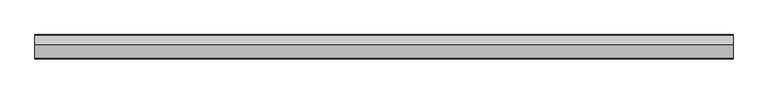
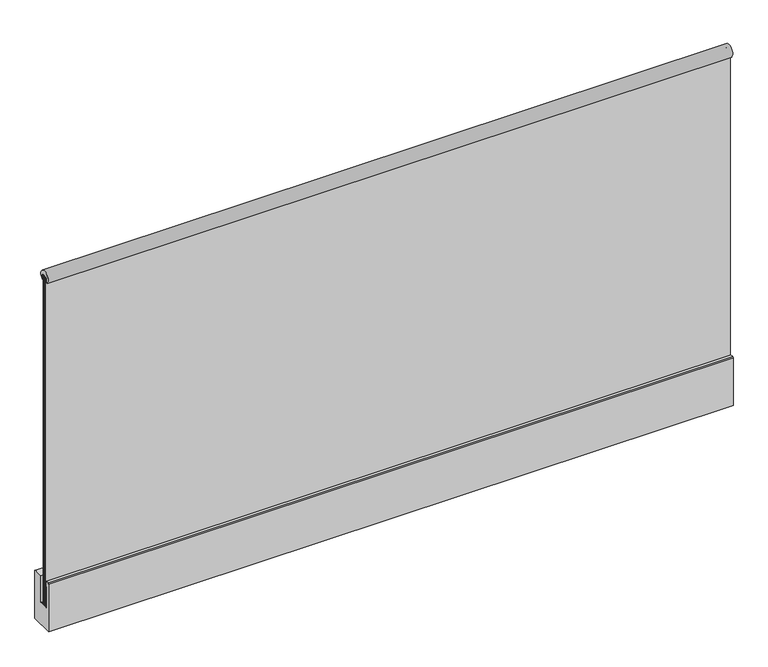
"""IFC4 building model written with IfcOpenShell, lengths in millimetres: railing geometry, Glass Railing (8+8) - Faraone - Ninfa 186 - Fascia mounted - Elipse Handrail 42.4."""

from ifc_helpers import new_model, si_unit, point, frame, frame_2d, origin, place, context, project, spatial, polyline, circle_curve, trimmed, segment, composite_curve, outline, extrude, source, transform, mapped, element, save


def railing_65ec6db7(model_context):
    return source(origin(), model_context, "Body", "SweptSolid", [
        extrude(outline(composite_curve([segment(polyline([(-2370.1890263, 1070.0168397), (-2373.0110364, 1070.0168397), (-2373.0110364, 1086.1465538)]), True, "CONTINUOUS"), segment(trimmed(circle_curve(frame_2d((-2376.3844826, 1086.1465538)), 3.3734462), [point((-2373.0110364, 1086.1465538))], [point((-2376.3844826, 1089.52))], True, "CARTESIAN"), True, "CONTINUOUS"), segment(polyline([(-2376.3844826, 1089.52), (-2393.4059942, 1089.52)]), True, "CONTINUOUS"), segment(trimmed(circle_curve(frame_2d((-2393.4059942, 1086.1344777)), 3.3855223), [point((-2393.4059942, 1089.52))], [point((-2396.7915164, 1086.1344777))], True, "CARTESIAN"), True, "CONTINUOUS"), segment(polyline([(-2396.7915164, 1086.1344777), (-2396.7915164, 1070.0168397), (-2399.6135266, 1070.0168397)]), True, "CONTINUOUS"), segment(trimmed(circle_curve(frame_2d((-2384.9012764, 1085.2808397)), 21.2), [point((-2399.6135266, 1070.0168397))], [point((-2370.1890263, 1070.0168397))], False, "CARTESIAN"), True, "CONTINUOUS")], self_intersect=False)), frame((4362.6376845, 0.0, 0.0), z_axis=(1.0, 0.0, 0.0), x_axis=(0.0, 1.0, 0.0)), (0.0, 0.0, 1.0), 2320.0),
        extrude(outline(polyline([(-2393.2912764, -92.36), (-2393.2912764, 1087.54), (-2385.3912764, 1087.54), (-2385.3912764, -91.56), (-2384.3912764, -91.56), (-2384.3912764, 1087.54), (-2376.4912764, 1087.54), (-2376.4912764, -92.36), (-2393.2912764, -92.36)])), frame((4362.6376845, 0.0, 0.0), z_axis=(1.0, 0.0, 0.0), x_axis=(0.0, 1.0, 0.0)), (0.0, 0.0, 1.0), 2320.0),
        extrude(outline(composite_curve([segment(polyline([(-2405.783846, -0.0006325), (-2395.8794055, -0.0006325), (-2395.8794055, -95.3393625), (-2364.1031474, -95.3393625), (-2364.1031474, -0.0006325), (-2331.6224115, -0.0006325)]), True, "CONTINUOUS"), segment(trimmed(circle_curve(frame_2d((-2331.6224115, -3.0621312)), 3.0614987), [point((-2331.6224115, -0.0006325))], [point((-2328.5609128, -3.0621312))], False, "CARTESIAN"), True, "CONTINUOUS"), segment(polyline([(-2328.5609128, -3.0621312), (-2328.5609128, -173.21), (-2408.9044462, -173.21), (-2408.9044462, -3.1212327)]), True, "CONTINUOUS"), segment(trimmed(circle_curve(frame_2d((-2405.783846, -3.1212327)), 3.1206002), [point((-2408.9044462, -3.1212327))], [point((-2405.783846, -0.0006325))], False, "CARTESIAN"), True, "CONTINUOUS")], self_intersect=False)), frame((4362.6376845, 0.0, 0.0), z_axis=(1.0, 0.0, 0.0), x_axis=(0.0, 1.0, 0.0)), (0.0, 0.0, 1.0), 2320.0),
        extrude(outline(polyline([(-2395.8831912, -95.34), (-2395.8831912, -20.1108016), (-2393.1592432, -20.1108016), (-2393.1592432, -92.3609041), (-2372.3993617, -92.3609041), (-2372.3993617, -95.34), (-2395.8831912, -95.34)])), frame((4362.6376845, 0.0, 0.0), z_axis=(1.0, 0.0, 0.0), x_axis=(0.0, 1.0, 0.0)), (0.0, 0.0, 1.0), 2320.0),
    ])


if __name__ == "__main__":
    model = new_model("IFC4")
    model_context = context("Model", 3, world=origin())
    ifc_project = project(units=[si_unit("LENGTHUNIT", "METRE", prefix="MILLI")], contexts=[model_context])
    site = spatial("IfcSite", under=ifc_project)
    building = spatial("IfcBuilding", under=site)
    placement = place(None, origin())
    railing_shape = railing_65ec6db7(model_context)
    element("IfcRailing", 1, ObjectType="Glass Railing (8+8) - Faraone - Ninfa 186 - Fascia mounted - Elipse Handrail 42.4", at=placement, inside=building, context=model_context, shape_type="MappedRepresentation", body=[
        mapped(railing_shape, transform((0.0, 0.0, 0.0), x_axis=(1.0, 0.0, 0.0), y_axis=(0.0, 1.0, 0.0), z_axis=(0.0, 0.0, 1.0))),
    ])
    save(model, "model.ifc")
